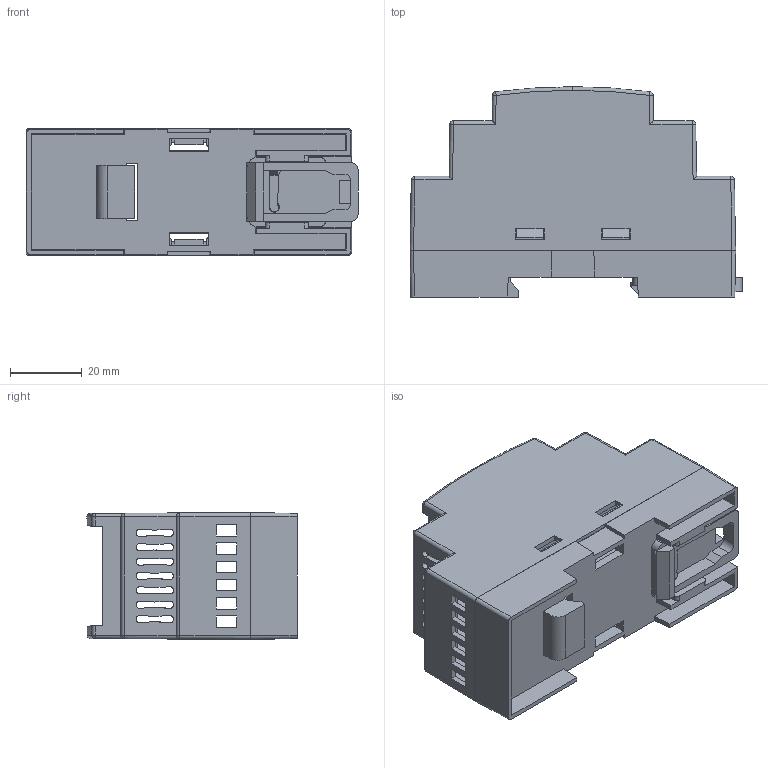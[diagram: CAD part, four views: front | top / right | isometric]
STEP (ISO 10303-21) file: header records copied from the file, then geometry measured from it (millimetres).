
FILE_DESCRIPTION (( 'STEP AP203' ), '1' );
FILE_NAME ('PT202-C.STEP', '2019-01-09T11:43:00', ( '' ), ( '' ), 'SwSTEP 2.0', 'SolidWorks 2018', '' );
FILE_SCHEMA (( 'CONFIG_CONTROL_DESIGN' ));
Length unit declared in the file: millimetre
Products named in the file (4): PT202-C
Assembly tree (3 placements, depth 2):
  PT202-C
    PT202-C
    PT202-C
    PT202-C
Bounding box: 92.38 x 58.5 x 35.3 mm (x, y, z)
Volume: 30210.9 mm3; surface area: 38292.4 mm2
Topology: 3 solids, 3 shells, 587 faces, 1697 edges, 1112 vertices
Faces by surface type: plane 331, cylinder 227, cone 14, sphere 12, bspline 3
Entity records: 19557 total; most frequent: CARTESIAN_POINT 4477, ORIENTED_EDGE 3378, DIRECTION 2670, EDGE_CURVE 1689, VECTOR 1192, LINE 1192, VERTEX_POINT 1112, AXIS2_PLACEMENT_3D 739
